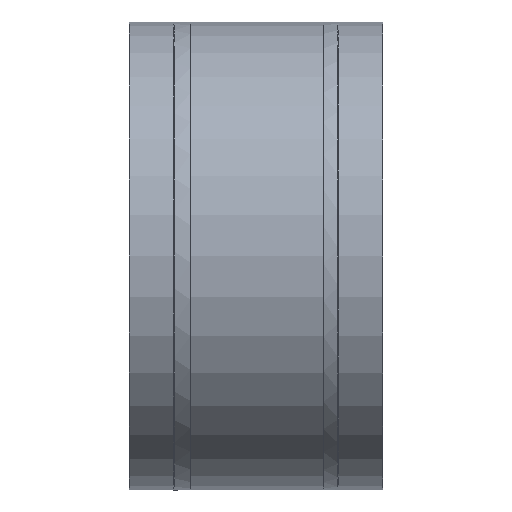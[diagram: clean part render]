
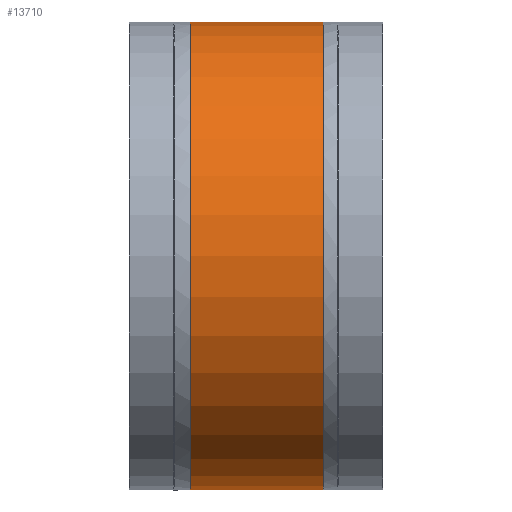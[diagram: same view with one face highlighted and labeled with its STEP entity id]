
A CAD part, front view. The second image highlights one B-rep face of the part: STEP entity #13710.
In plain terms, the highlighted cylindrical face has radius 254 mm (diameter 508 mm), a partial arc.
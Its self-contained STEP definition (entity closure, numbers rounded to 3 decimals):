
#8 = CIRCLE ( 'NONE', #9, 254. ) ;
#9 = AXIS2_PLACEMENT_3D ( 'NONE', #10, #11, #12 ) ;
#10 = CARTESIAN_POINT ( 'NONE',  ( -150.628, 0., 0. ) ) ;
#11 = DIRECTION ( 'NONE',  ( -1., 0., 0. ) ) ;
#12 = DIRECTION ( 'NONE',  ( 0., 0., 1. ) ) ;
#16442 = FACE_OUTER_BOUND ( 'NONE', #6730, .T. ) ;
#16443 = CYLINDRICAL_SURFACE ( 'NONE', #16444, 254. ) ;
#16444 = AXIS2_PLACEMENT_3D ( 'NONE', #16445, #16446, #16447 ) ;
#16445 = CARTESIAN_POINT ( 'NONE',  ( -85.418, 0., 0. ) ) ;
#16446 = DIRECTION ( 'NONE',  ( -1., 0., 0. ) ) ;
#16447 = DIRECTION ( 'NONE',  ( 0., 0., 1. ) ) ;
#1773 = EDGE_CURVE ( 'NONE', #6137, #10001, #11899, .T. ) ;
#2589 = LINE ( 'NONE', #2590, #2591 ) ;
#2590 = CARTESIAN_POINT ( 'NONE',  ( -85.418, 0., 254. ) ) ;
#2591 = VECTOR ( 'NONE', #2592, 1000. ) ;
#2592 = DIRECTION ( 'NONE',  ( -1., 0., 0. ) ) ;
#3938 = ORIENTED_EDGE ( 'NONE', *, *, #14127, .F. ) ;
#4132 = CARTESIAN_POINT ( 'NONE',  ( -150.628, 0., 254. ) ) ;
#4496 = ORIENTED_EDGE ( 'NONE', *, *, #9424, .T. ) ;
#4746 = VERTEX_POINT ( 'NONE', #13963 ) ;
#4942 = CARTESIAN_POINT ( 'NONE',  ( -150.628, 0., -254. ) ) ;
#5249 = EDGE_CURVE ( 'NONE', #6137, #4746, #14325, .T. ) ;
#5657 = ORIENTED_EDGE ( 'NONE', *, *, #5249, .T. ) ;
#6137 = VERTEX_POINT ( 'NONE', #15592 ) ;
#6219 = ORIENTED_EDGE ( 'NONE', *, *, #1773, .F. ) ;
#6730 = EDGE_LOOP ( 'NONE', ( #6219, #5657, #4496, #3938 ) ) ;
#9424 = EDGE_CURVE ( 'NONE', #4746, #9753, #2589, .T. ) ;
#9753 = VERTEX_POINT ( 'NONE', #4132 ) ;
#10001 = VERTEX_POINT ( 'NONE', #4942 ) ;
#11899 = LINE ( 'NONE', #11900, #11901 ) ;
#11900 = CARTESIAN_POINT ( 'NONE',  ( -85.418, 0., -254. ) ) ;
#11901 = VECTOR ( 'NONE', #11902, 1000. ) ;
#11902 = DIRECTION ( 'NONE',  ( -1., 0., 0. ) ) ;
#13710 = ADVANCED_FACE ( 'NONE', ( #16442 ), #16443, .T. ) ;
#13963 = CARTESIAN_POINT ( 'NONE',  ( -6.466, 0., 254. ) ) ;
#14127 = EDGE_CURVE ( 'NONE', #10001, #9753, #8, .T. ) ;
#14325 = CIRCLE ( 'NONE', #14327, 254. ) ;
#14327 = AXIS2_PLACEMENT_3D ( 'NONE', #14328, #14329, #14330 ) ;
#14328 = CARTESIAN_POINT ( 'NONE',  ( -6.466, 0., 0. ) ) ;
#14329 = DIRECTION ( 'NONE',  ( -1., 0., 0. ) ) ;
#14330 = DIRECTION ( 'NONE',  ( 0., 0., 1. ) ) ;
#15592 = CARTESIAN_POINT ( 'NONE',  ( -6.466, 0., -254. ) ) ;
